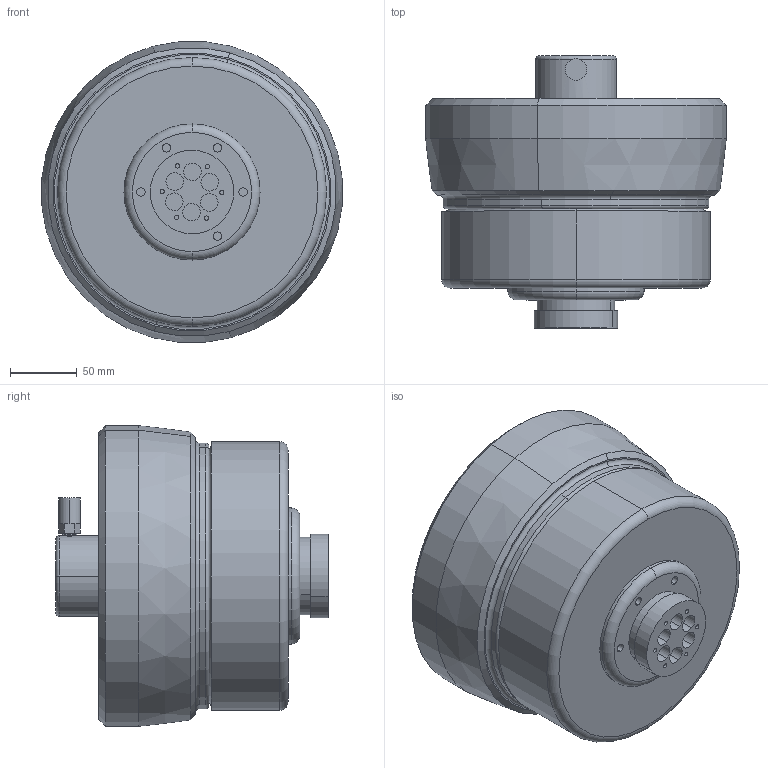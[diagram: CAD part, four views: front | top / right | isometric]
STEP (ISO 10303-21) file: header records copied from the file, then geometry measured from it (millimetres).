
FILE_DESCRIPTION (( 'STEP AP214' ), '1' );
FILE_NAME ('DBH140 top mount.STEP', '2013-09-19T20:16:42', ( '' ), ( '' ), 'SwSTEP 2.0', 'SolidWorks 2012', '' );
FILE_SCHEMA (( 'AUTOMOTIVE_DESIGN' ));
Length unit declared in the file: inch
Products named in the file (1): DBH140 top mount
Bounding box: 224.37 x 203.12 x 224.37 mm (x, y, z)
Volume: 5167134.6 mm3; surface area: 191703.8 mm2
Topology: 1 solids, 1 shells, 153 faces, 314 edges, 205 vertices
Faces by surface type: cylinder 74, plane 50, cone 17, torus 12
Entity records: 4576 total; most frequent: DIRECTION 819, CARTESIAN_POINT 768, ORIENTED_EDGE 628, AXIS2_PLACEMENT_3D 356, EDGE_CURVE 314, VERTEX_POINT 205, CIRCLE 202, EDGE_LOOP 195
